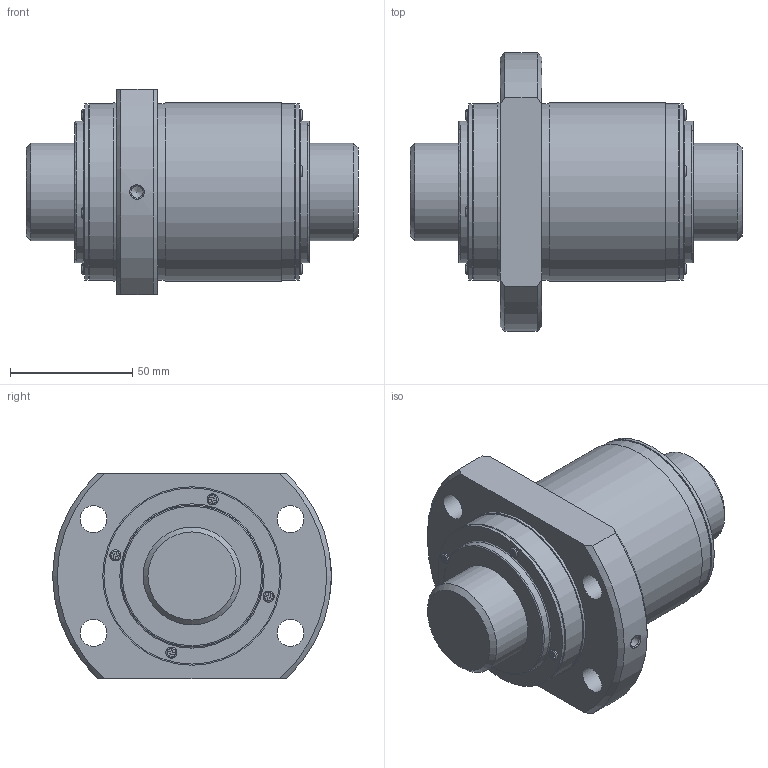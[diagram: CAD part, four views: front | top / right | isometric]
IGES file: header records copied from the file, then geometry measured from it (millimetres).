
Start section: Data from Parasolid IGES Translator 26.0.171, Copyright(c) 2006 Siemens PLM Software. All Rights Reserved.
Global section: file name: BLK4040-3.6ZZ+135.8LC7T_000.igs; native system: By Siemens PLM Incorporated; preprocessor: XPlus GENERIC/IGES 26.0.171; author: Noname; organization: Noname; date: 20250611.063116; units: millimetre
Bounding box: 135.8 x 114 x 84 mm (x, y, z)
Surface area: 71320.1 mm2 (no closed solid volume)
Topology: 0 solids, 0 shells, 215 faces, 1083 edges, 1011 vertices
Faces by surface type: extrusion 127, revolution 88
